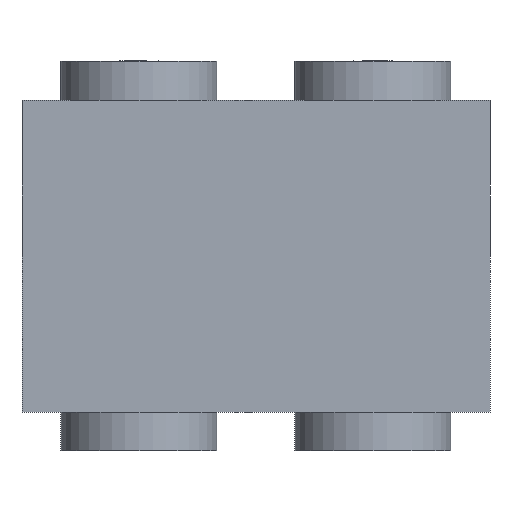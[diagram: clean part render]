
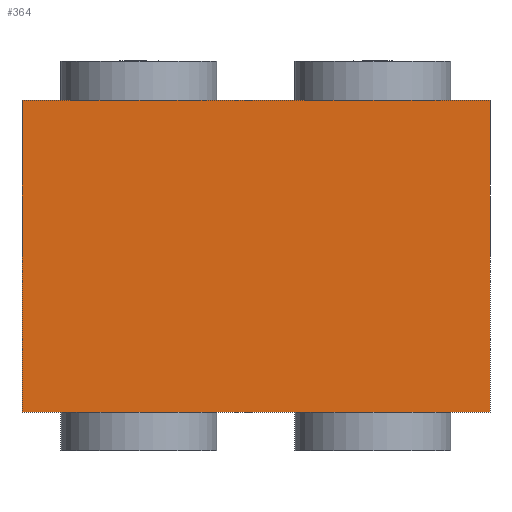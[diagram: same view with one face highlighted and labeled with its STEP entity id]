
A CAD part, front view. The second image highlights one B-rep face of the part: STEP entity #364.
In plain terms, the highlighted planar face has unit normal (0, -1, 0) as drawn and (-1, 0, 0) by its records, which use the part's own axes.
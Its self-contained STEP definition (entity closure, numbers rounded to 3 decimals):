
#64=PLANE('',#460);
#81=FACE_OUTER_BOUND('',#101,.T.);
#101=EDGE_LOOP('',(#297,#298,#299,#300));
#135=LINE('',#654,#164);
#138=LINE('',#660,#167);
#139=LINE('',#662,#168);
#140=LINE('',#663,#169);
#164=VECTOR('',#534,10.);
#167=VECTOR('',#539,10.);
#168=VECTOR('',#540,10.);
#169=VECTOR('',#541,10.);
#205=VERTEX_POINT('',#651);
#206=VERTEX_POINT('',#653);
#208=VERTEX_POINT('',#659);
#209=VERTEX_POINT('',#661);
#241=EDGE_CURVE('',#205,#206,#135,.T.);
#244=EDGE_CURVE('',#208,#205,#138,.T.);
#245=EDGE_CURVE('',#209,#208,#139,.T.);
#246=EDGE_CURVE('',#206,#209,#140,.T.);
#297=ORIENTED_EDGE('',*,*,#244,.F.);
#298=ORIENTED_EDGE('',*,*,#245,.F.);
#299=ORIENTED_EDGE('',*,*,#246,.F.);
#300=ORIENTED_EDGE('',*,*,#241,.F.);
#364=ADVANCED_FACE('',(#81),#64,.T.);
#460=AXIS2_PLACEMENT_3D('',#658,#537,#538);
#534=DIRECTION('',(0.,1.,0.));
#537=DIRECTION('center_axis',(-1.,0.,0.));
#538=DIRECTION('ref_axis',(0.,-1.,0.));
#539=DIRECTION('',(0.,0.,-1.));
#540=DIRECTION('',(0.,-1.,0.));
#541=DIRECTION('',(0.,0.,1.));
#651=CARTESIAN_POINT('',(-20.,-20.,-30.));
#653=CARTESIAN_POINT('',(-20.,20.,-30.));
#654=CARTESIAN_POINT('',(-20.,20.,-30.));
#658=CARTESIAN_POINT('Origin',(-20.,20.,0.));
#659=CARTESIAN_POINT('',(-20.,-20.,30.));
#660=CARTESIAN_POINT('',(-20.,-20.,0.));
#661=CARTESIAN_POINT('',(-20.,20.,30.));
#662=CARTESIAN_POINT('',(-20.,20.,30.));
#663=CARTESIAN_POINT('',(-20.,20.,0.));
